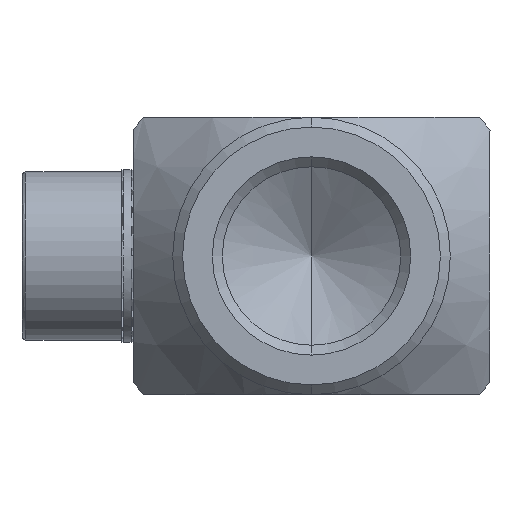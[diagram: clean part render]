
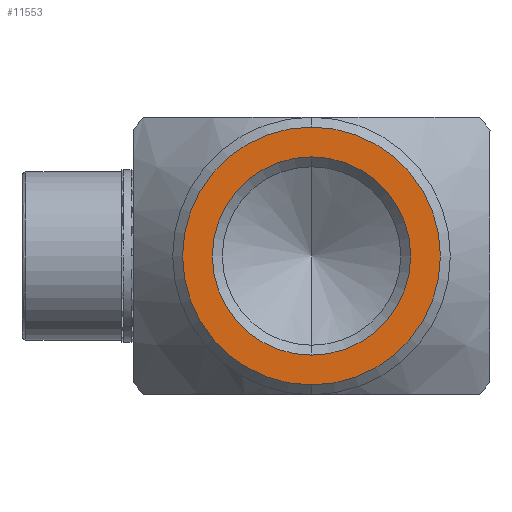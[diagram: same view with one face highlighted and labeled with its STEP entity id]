
A CAD part, front view. The second image highlights one B-rep face of the part: STEP entity #11553.
In plain terms, the highlighted planar face has unit normal (0, -1, 0).
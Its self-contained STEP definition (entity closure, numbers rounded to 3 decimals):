
#45 = VERTEX_POINT ( 'NONE', #11636 ) ;
#68 = DIRECTION ( 'NONE',  ( 0., 0., 1. ) ) ;
#155 = VERTEX_POINT ( 'NONE', #548 ) ;
#216 = AXIS2_PLACEMENT_3D ( 'NONE', #1720, #4395, #4450 ) ;
#548 = CARTESIAN_POINT ( 'NONE',  ( -56.071, -40.543, 151. ) ) ;
#872 = VERTEX_POINT ( 'NONE', #3041 ) ;
#1258 = CIRCLE ( 'NONE', #5044, 6.5 ) ;
#1657 = FACE_OUTER_BOUND ( 'NONE', #12089, .T. ) ;
#1720 = CARTESIAN_POINT ( 'NONE',  ( -56.071, -40.543, 146. ) ) ;
#1825 = ORIENTED_EDGE ( 'NONE', *, *, #3377, .T. ) ;
#1854 = EDGE_LOOP ( 'NONE', ( #9739, #10617 ) ) ;
#2282 = AXIS2_PLACEMENT_3D ( 'NONE', #8040, #2398, #2332 ) ;
#2332 = DIRECTION ( 'NONE',  ( 0., 0., -1. ) ) ;
#2398 = DIRECTION ( 'NONE',  ( 0., -1., 0. ) ) ;
#2567 = DIRECTION ( 'NONE',  ( 0., 0., 1. ) ) ;
#2704 = DIRECTION ( 'NONE',  ( 0., 0., 1. ) ) ;
#2792 = DIRECTION ( 'NONE',  ( 0., 1., 0. ) ) ;
#3041 = CARTESIAN_POINT ( 'NONE',  ( -56.071, -40.543, 139.5 ) ) ;
#3187 = CIRCLE ( 'NONE', #216, 5. ) ;
#3377 = EDGE_CURVE ( 'NONE', #872, #45, #8644, .T. ) ;
#3494 = AXIS2_PLACEMENT_3D ( 'NONE', #8587, #2792, #68 ) ;
#3668 = EDGE_CURVE ( 'NONE', #45, #872, #1258, .T. ) ;
#4395 = DIRECTION ( 'NONE',  ( 0., -1., 0. ) ) ;
#4416 = VERTEX_POINT ( 'NONE', #7653 ) ;
#4450 = DIRECTION ( 'NONE',  ( 0., 0., -1. ) ) ;
#5044 = AXIS2_PLACEMENT_3D ( 'NONE', #7368, #9174, #2567 ) ;
#6737 = EDGE_CURVE ( 'NONE', #4416, #155, #3187, .T. ) ;
#7249 = CIRCLE ( 'NONE', #2282, 5. ) ;
#7368 = CARTESIAN_POINT ( 'NONE',  ( -56.071, -40.543, 146. ) ) ;
#7621 = AXIS2_PLACEMENT_3D ( 'NONE', #10179, #9066, #2704 ) ;
#7653 = CARTESIAN_POINT ( 'NONE',  ( -56.071, -40.543, 141. ) ) ;
#8040 = CARTESIAN_POINT ( 'NONE',  ( -56.071, -40.543, 146. ) ) ;
#8192 = FACE_BOUND ( 'NONE', #1854, .T. ) ;
#8587 = CARTESIAN_POINT ( 'NONE',  ( -62.649, -40.543, 139.422 ) ) ;
#8644 = CIRCLE ( 'NONE', #7621, 6.5 ) ;
#9066 = DIRECTION ( 'NONE',  ( 0., -1., 0. ) ) ;
#9174 = DIRECTION ( 'NONE',  ( 0., -1., 0. ) ) ;
#9295 = EDGE_CURVE ( 'NONE', #155, #4416, #7249, .T. ) ;
#9739 = ORIENTED_EDGE ( 'NONE', *, *, #6737, .F. ) ;
#10179 = CARTESIAN_POINT ( 'NONE',  ( -56.071, -40.543, 146. ) ) ;
#10617 = ORIENTED_EDGE ( 'NONE', *, *, #9295, .F. ) ;
#11007 = ORIENTED_EDGE ( 'NONE', *, *, #3668, .T. ) ;
#11553 = ADVANCED_FACE ( 'NONE', ( #8192, #1657 ), #12015, .F. ) ;
#11636 = CARTESIAN_POINT ( 'NONE',  ( -56.071, -40.543, 152.5 ) ) ;
#12015 = PLANE ( 'NONE',  #3494 ) ;
#12089 = EDGE_LOOP ( 'NONE', ( #11007, #1825 ) ) ;
